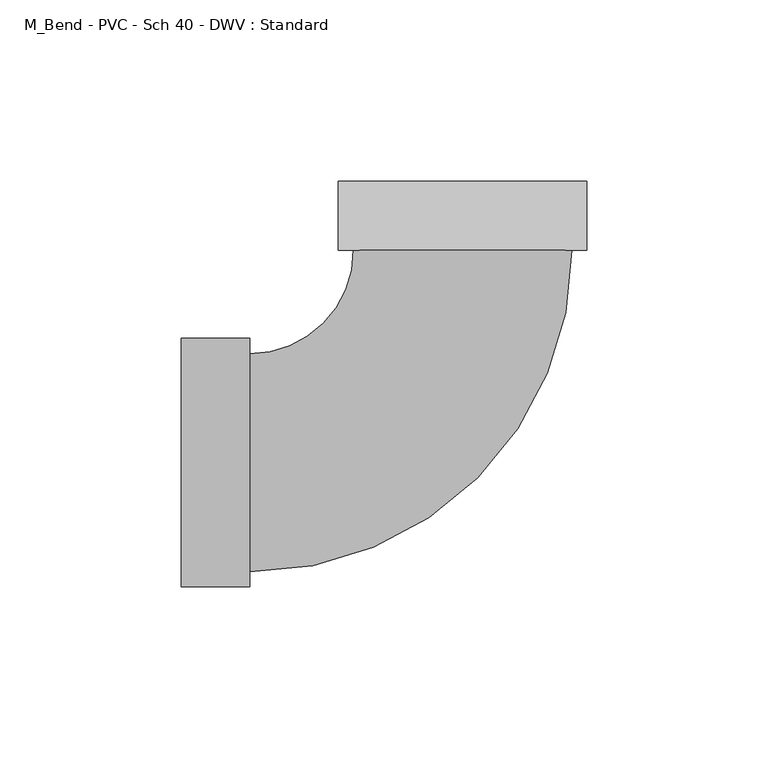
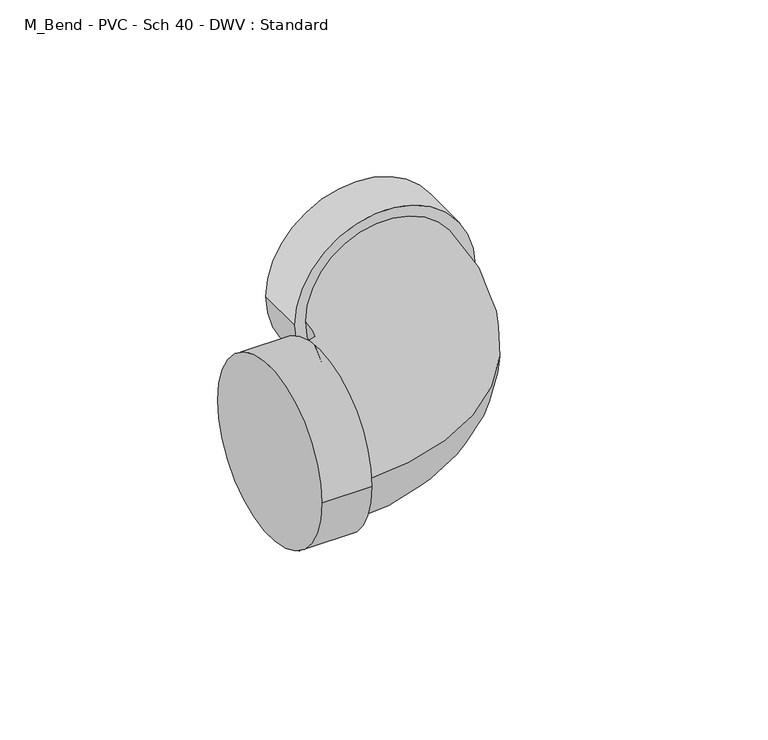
"""IFC4 building model written with IfcOpenShell, lengths in millimetres: pipe fitting geometry, M_Bend - PVC - Sch 40 - DWV : Standard."""

from ifc_helpers import new_model, si_unit, point, frame, origin, place, context, project, spatial, circle_curve, ellipse_curve, trimmed, source, transform, mapped, element, save
from ifc_brep_helpers import plane_surface, cylinder_surface, revolved_surface, advanced_brep


def m_bend_pvc_sch_40_dwv_standard_1eaeee76(model_context):
    return source(origin(), model_context, "Body", "AdvancedBrep", [
        advanced_brep(
        [(-77.8002, -34.3154, 0.0), (-77.8002, 34.3154, 0.0), (-58.7502, -34.3154, 0.0), (-58.7502, 34.3154, 0.0), (-58.7502, -30.1625, 0.0), (-58.7502, 30.1625, 0.0), (-30.1625, 58.7502, 0.0), (30.1625, 58.7502, 0.0), (34.3154, 58.7502, 0.0), (-34.3154, 58.7502, 0.0), (34.3154, 77.8002, 0.0), (-34.3154, 77.8002, 0.0)],
        [
            (0, 1, circle_curve(frame((-77.8002, 0.0, 0.0), z_axis=(-1.0, 0.0, 0.0), x_axis=(0.0, 1.0, 0.0)), 34.3154)),
            (1, 0, circle_curve(frame((-77.8002, 0.0, 0.0), z_axis=(-1.0, 0.0, 0.0), x_axis=(0.0, 1.0, 0.0)), 34.3154)),
            (2, 3, circle_curve(frame((-58.7502, 0.0, 0.0), z_axis=(1.0, 0.0, 0.0), x_axis=(0.0, 1.0, 0.0)), 34.3154)),
            (3, 2, circle_curve(frame((-58.7502, 0.0, 0.0), z_axis=(1.0, 0.0, 0.0), x_axis=(0.0, 1.0, 0.0)), 34.3154)),
            (4, 5, circle_curve(frame((-58.7502, 0.0, 0.0), z_axis=(-1.0, 0.0, 0.0), x_axis=(0.0, 1.0, 0.0)), 30.1625)),
            (5, 4, circle_curve(frame((-58.7502, 0.0, 0.0), z_axis=(-1.0, 0.0, 0.0), x_axis=(0.0, 1.0, 0.0)), 30.1625)),
            (0, 2),
            (3, 1),
            (6, 5, circle_curve(frame((-58.7502, 58.7502, 0.0), z_axis=(0.0, 0.0, -1.0), x_axis=(0.0, -1.0, 0.0)), 28.5877)),
            (4, 7, circle_curve(frame((-58.7502, 58.7502, 0.0), z_axis=(0.0, 0.0, 1.0), x_axis=(0.0, -1.0, 0.0)), 88.9127)),
            (7, 6, circle_curve(frame((0.0, 58.7502, 0.0), z_axis=(0.0, -1.0, 0.0), x_axis=(-1.0, 0.0, 0.0)), 30.1625)),
            (6, 7, circle_curve(frame((0.0, 58.7502, 0.0), z_axis=(0.0, -1.0, 0.0), x_axis=(-1.0, 0.0, 0.0)), 30.1625)),
            (8, 9, circle_curve(frame((0.0, 58.7502, 0.0), z_axis=(0.0, -1.0, 0.0), x_axis=(-1.0, 0.0, 0.0)), 34.3154)),
            (9, 8, circle_curve(frame((0.0, 58.7502, 0.0), z_axis=(0.0, -1.0, 0.0), x_axis=(-1.0, 0.0, 0.0)), 34.3154)),
            (10, 11, circle_curve(frame((0.0, 77.8002, 0.0), z_axis=(0.0, 1.0, 0.0), x_axis=(-1.0, 0.0, 0.0)), 34.3154)),
            (11, 10, circle_curve(frame((0.0, 77.8002, 0.0), z_axis=(0.0, 1.0, 0.0), x_axis=(-1.0, 0.0, 0.0)), 34.3154)),
            (8, 10),
            (11, 9),
        ],
        [
            plane_surface(frame((-77.8002, 0.0, 0.0), z_axis=(-1.0, 0.0, 0.0), x_axis=(0.0, 0.0, 1.0))),
            plane_surface(frame((-58.7502, 0.0, 0.0), z_axis=(1.0, 0.0, 0.0), x_axis=(0.0, 0.0, 1.0))),
            cylinder_surface(frame((-77.8002, 0.0, 0.0), z_axis=(-1.0, 0.0, 0.0), x_axis=(0.0, 1.0, 0.0)), 34.3154),
            revolved_surface(trimmed(ellipse_curve(frame((-58.7502, 0.0, 0.0), z_axis=(-1.0, 0.0, 0.0), x_axis=(0.0, 1.0, 0.0)), 30.1625, 30.1625), [point((-58.7502, -30.1625, 0.0))], [point((-58.7502, 30.1625, 0.0))], True, "CARTESIAN"), (-58.7502, 58.7502, 0.0), (0.0, 0.0, 1.0)),
            revolved_surface(trimmed(ellipse_curve(frame((-58.7502, 0.0, 0.0), z_axis=(-1.0, 0.0, 0.0), x_axis=(0.0, 1.0, 0.0)), 30.1625, 30.1625), [point((-58.7502, 30.1625, 0.0))], [point((-58.7502, -30.1625, 0.0))], True, "CARTESIAN"), (-58.7502, 58.7502, 0.0), (0.0, 0.0, 1.0)),
            plane_surface(frame((0.0, 58.7502, 0.0), z_axis=(0.0, -1.0, 0.0), x_axis=(0.0, 0.0, 1.0))),
            plane_surface(frame((0.0, 77.8002, 0.0), z_axis=(0.0, 1.0, 0.0), x_axis=(0.0, 0.0, 1.0))),
            cylinder_surface(frame((0.0, 58.7502, 0.0), z_axis=(0.0, -1.0, 0.0), x_axis=(-1.0, 0.0, 0.0)), 34.3154),
        ],
        [
            (0, [[1, 2]]),
            (1, [[3, 4], [5, 6]]),
            (2, [[-1, 7, -4, 8]]),
            (2, [[-2, -8, -3, -7]]),
            (3, [[9, -5, 10, 11]]),
            (4, [[-9, 12, -10, -6]]),
            (5, [[13, 14], [-11, -12]]),
            (6, [[15, 16]]),
            (7, [[-13, 17, -16, 18]]),
            (7, [[-14, -18, -15, -17]]),
        ],
    ),
    ])


if __name__ == "__main__":
    model = new_model("IFC4")
    model_context = context("Model", 3, world=origin())
    ifc_project = project(units=[si_unit("LENGTHUNIT", "METRE", prefix="MILLI")], contexts=[model_context])
    site = spatial("IfcSite", under=ifc_project)
    building = spatial("IfcBuilding", under=site)
    placement = place(None, origin())
    m_bend_pvc_sch_40_dwv_standard_shape = m_bend_pvc_sch_40_dwv_standard_1eaeee76(model_context)
    element("IfcPipeFitting", 1, ObjectType="M_Bend - PVC - Sch 40 - DWV : Standard", at=placement, inside=building, context=model_context, shape_type="MappedRepresentation", body=[
        mapped(m_bend_pvc_sch_40_dwv_standard_shape, transform((0.0, 0.0, 0.0), x_axis=(1.0, 0.0, 0.0), y_axis=(0.0, 1.0, 0.0), z_axis=(0.0, 0.0, 1.0))),
    ])
    save(model, "model.ifc")
